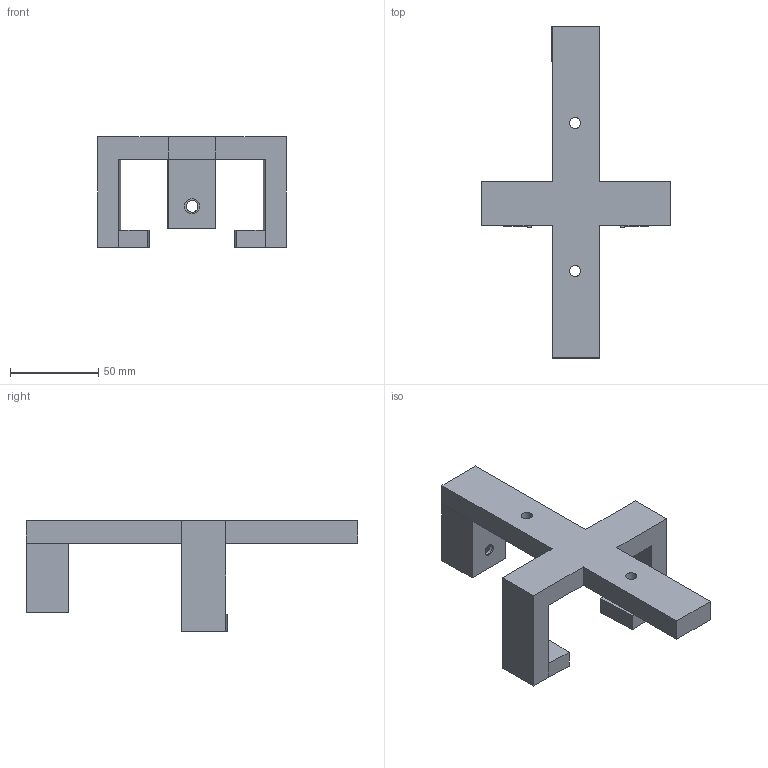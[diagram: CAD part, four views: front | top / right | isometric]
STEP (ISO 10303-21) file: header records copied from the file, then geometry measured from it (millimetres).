
FILE_DESCRIPTION(/* description */ (''),/* implementation_level */ '2;1');
FILE_NAME(/* name */ 'Battery Mount.step',/* time_stamp */ '2026-03-03T19:20:44-05:00',/* author */ (''),/* organization */ (''),/* preprocessor_version */ 'ST-DEVELOPER v20.1',/* originating_system */ 'Autodesk Translation Framework v14.24.0.0',/* authorisation */ '');
FILE_SCHEMA (('AUTOMOTIVE_DESIGN { 1 0 10303 214 3 1 1 }'));
Length unit declared in the file: millimetre
Products named in the file (3): 2026-03-01-14-03-24-083; 2026-03-01-14-19-23-195; 2026-03-01-14-25-41-929
Assembly tree (2 placements, depth 2):
  2026-03-01-14-03-24-083
    2026-03-01-14-19-23-195
    2026-03-01-14-25-41-929
Bounding box: 107 x 188.34 x 62.7 mm (x, y, z)
Volume: 149610.9 mm3; surface area: 36847.1 mm2
Topology: 1 solids, 1 shells, 49 faces, 127 edges, 83 vertices
Faces by surface type: plane 40, cylinder 9
Full cylindrical faces by diameter (mm): 3 x2, 6.35 x2, 6.6 x1, 8.65 x1
Entity records: 1564 total; most frequent: CARTESIAN_POINT 264, ORIENTED_EDGE 254, DIRECTION 253, EDGE_CURVE 127, LINE 109, VECTOR 109, VERTEX_POINT 83, AXIS2_PLACEMENT_3D 72
